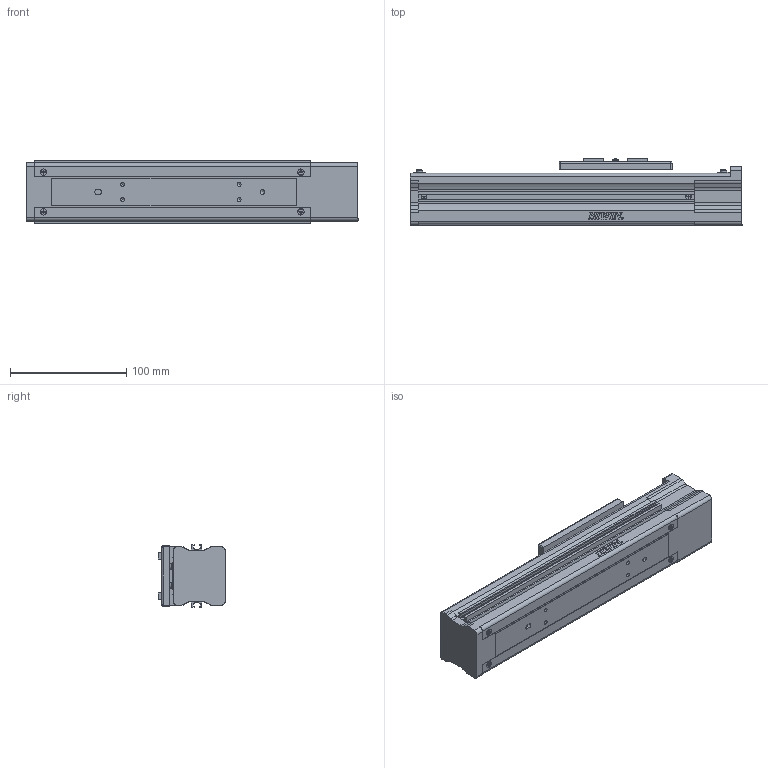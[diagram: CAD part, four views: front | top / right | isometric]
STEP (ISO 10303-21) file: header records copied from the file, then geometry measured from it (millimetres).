
FILE_DESCRIPTION(/* description */ (''),/* implementation_level */ '2;1');
FILE_NAME(/* name */ 'D:\混合母檔20191031\混和母檔\混和母檔\bin\Debug\Download\3D\KE504C-100AF0\KE504C-100AF0.stp',/* time_stamp */ '2019-11-04T13:39:11+08:00',/* author */ ('user'),/* organization */ (''),/* preprocessor_version */ 'ST-DEVELOPER v16.13',/* originating_system */ 'Autodesk Inventor 2018',/* authorisation */ '');
FILE_SCHEMA (('AUTOMOTIVE_DESIGN { 1 0 10303 214 3 1 1 }'));
Length unit declared in the file: millimetre
Products named in the file (3): KE504C-100AF0; KE50-F0-BP; KE50-SL
Assembly tree (2 placements, depth 2):
  KE504C-100AF0
    KE50-F0-BP
    KE50-SL
Bounding box: 285 x 58 x 54 mm (x, y, z)
Volume: 627912.7 mm3; surface area: 87716 mm2
Topology: 2 solids, 10 shells, 935 faces, 2549 edges, 1685 vertices
Faces by surface type: plane 462, cone 151, bspline 140, cylinder 114, torus 62, sphere 6
Full cylindrical faces by diameter (mm): 2.459 x4, 2.729 x6, 3 x2, 3.242 x12, 3.5 x4, 4 x3, 5.5 x4, 6 x1, 7.9 x1, 8 x1, 26 x1, 30 x1
Entity records: 32954 total; most frequent: CARTESIAN_POINT 10157, ORIENTED_EDGE 4856, DIRECTION 4359, EDGE_CURVE 2428, VERTEX_POINT 1648, AXIS2_PLACEMENT_3D 1482, LINE 1395, VECTOR 1395
